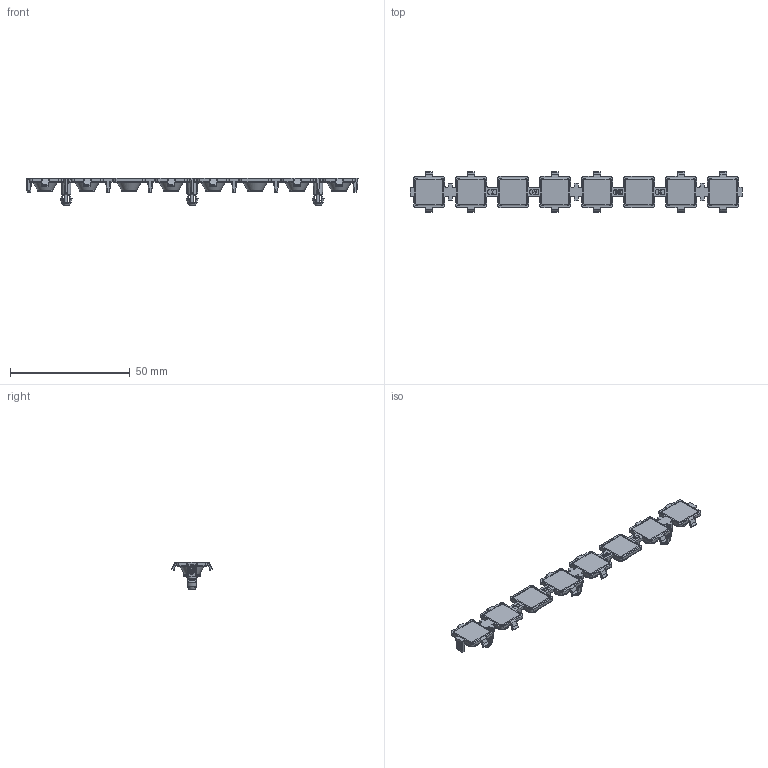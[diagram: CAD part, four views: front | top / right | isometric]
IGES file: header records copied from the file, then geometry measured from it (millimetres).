
Start section: C
Global section: file name: 025-000-0D.igs; native system: By Siemens PLM Incorporated; preprocessor: XPlus GENERIC/IGES 23.0.61; author: Author; organization: Title; date: 20250507.201150; units: millimetre
Bounding box: 138.4 x 17.01 x 11.6 mm (x, y, z)
Volume: 4364.6 mm3; surface area: 5383.9 mm2
Topology: 1 solids, 1 shells, 1242 faces, 3314 edges, 2079 vertices
Faces by surface type: bspline 1242
